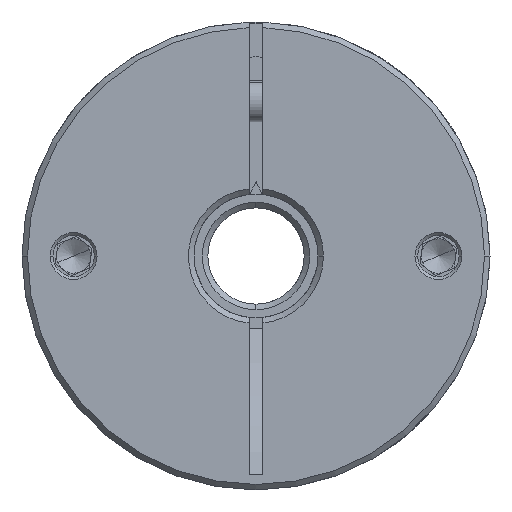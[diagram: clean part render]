
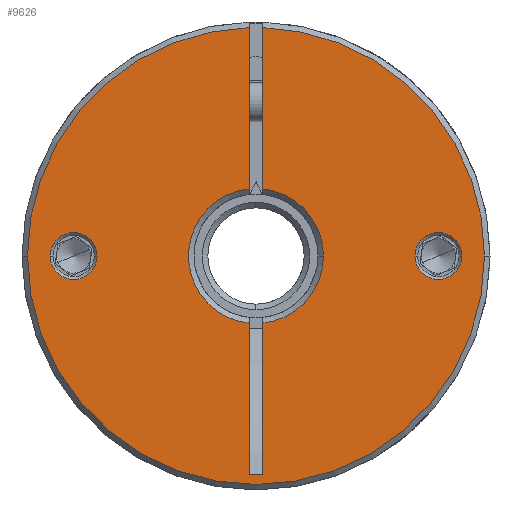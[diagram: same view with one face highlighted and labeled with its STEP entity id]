
A CAD part, front view. The second image highlights one B-rep face of the part: STEP entity #9626.
In plain terms, the highlighted planar face has unit normal (0, -1, 0).
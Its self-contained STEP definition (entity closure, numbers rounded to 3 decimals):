
#118 = DIRECTION ( 'NONE',  ( 1., 0., 0. ) ) ;
#172 = CARTESIAN_POINT ( 'NONE',  ( -1.735, -47.045, 68. ) ) ;
#186 = EDGE_CURVE ( 'NONE', #13258, #6462, #1898, .T. ) ;
#206 = DIRECTION ( 'NONE',  ( 0., 0., -1. ) ) ;
#277 = VERTEX_POINT ( 'NONE', #8946 ) ;
#279 = CARTESIAN_POINT ( 'NONE',  ( -1.735, -47.045, 36.279 ) ) ;
#445 = VERTEX_POINT ( 'NONE', #279 ) ;
#524 = AXIS2_PLACEMENT_3D ( 'NONE', #3279, #1145, #10631 ) ;
#626 = VECTOR ( 'NONE', #10446, 1000. ) ;
#857 = CARTESIAN_POINT ( 'NONE',  ( 23.765, -47.045, 68. ) ) ;
#892 = ORIENTED_EDGE ( 'NONE', *, *, #11038, .T. ) ;
#1102 = ORIENTED_EDGE ( 'NONE', *, *, #12597, .T. ) ;
#1109 = CARTESIAN_POINT ( 'NONE',  ( -3.735, -47.045, 77.749 ) ) ;
#1145 = DIRECTION ( 'NONE',  ( 0., -1., 0. ) ) ;
#1353 = AXIS2_PLACEMENT_3D ( 'NONE', #857, #8161, #7157 ) ;
#1414 = FACE_OUTER_BOUND ( 'NONE', #13243, .T. ) ;
#1898 = CIRCLE ( 'NONE', #12366, 9.8 ) ;
#1980 = CARTESIAN_POINT ( 'NONE',  ( 7.065, -47.045, 68. ) ) ;
#2111 = VERTEX_POINT ( 'NONE', #9731 ) ;
#2154 = CARTESIAN_POINT ( 'NONE',  ( -2.735, -47.045, 68. ) ) ;
#2313 = CARTESIAN_POINT ( 'NONE',  ( 20.365, -47.045, 68. ) ) ;
#2338 = VERTEX_POINT ( 'NONE', #4092 ) ;
#2488 = VECTOR ( 'NONE', #9210, 1000. ) ;
#2622 = DIRECTION ( 'NONE',  ( 1., 0., 0. ) ) ;
#2623 = VERTEX_POINT ( 'NONE', #8522 ) ;
#2710 = AXIS2_PLACEMENT_3D ( 'NONE', #13197, #6738, #2622 ) ;
#2825 = EDGE_CURVE ( 'NONE', #8550, #6773, #5056, .T. ) ;
#2843 = LINE ( 'NONE', #8639, #6564 ) ;
#2860 = CIRCLE ( 'NONE', #10900, 3.4 ) ;
#2945 = CARTESIAN_POINT ( 'NONE',  ( -1.735, -47.045, 77.749 ) ) ;
#3072 = CIRCLE ( 'NONE', #6744, 3.4 ) ;
#3116 = EDGE_CURVE ( 'NONE', #7519, #9860, #8112, .T. ) ;
#3189 = FACE_BOUND ( 'NONE', #7786, .T. ) ;
#3279 = CARTESIAN_POINT ( 'NONE',  ( -2.735, -47.045, 68. ) ) ;
#3294 = VECTOR ( 'NONE', #12781, 1000. ) ;
#3422 = VERTEX_POINT ( 'NONE', #6167 ) ;
#3592 = EDGE_CURVE ( 'NONE', #6773, #8550, #2860, .T. ) ;
#3653 = CARTESIAN_POINT ( 'NONE',  ( -2.735, -47.045, 68. ) ) ;
#3936 = DIRECTION ( 'NONE',  ( 1., 0., 0. ) ) ;
#3984 = DIRECTION ( 'NONE',  ( 0., -1., 0. ) ) ;
#4092 = CARTESIAN_POINT ( 'NONE',  ( -32.635, -47.045, 68. ) ) ;
#4115 = CARTESIAN_POINT ( 'NONE',  ( -1.735, -47.045, 68. ) ) ;
#4176 = ORIENTED_EDGE ( 'NONE', *, *, #12301, .T. ) ;
#4639 = ORIENTED_EDGE ( 'NONE', *, *, #10930, .T. ) ;
#4728 = DIRECTION ( 'NONE',  ( 0., 1., 0. ) ) ;
#4795 = AXIS2_PLACEMENT_3D ( 'NONE', #12314, #9121, #7979 ) ;
#4797 = ORIENTED_EDGE ( 'NONE', *, *, #3592, .T. ) ;
#4944 = CIRCLE ( 'NONE', #10161, 33.2 ) ;
#5056 = CIRCLE ( 'NONE', #1353, 3.4 ) ;
#5070 = EDGE_CURVE ( 'NONE', #2111, #2338, #10439, .T. ) ;
#5201 = CARTESIAN_POINT ( 'NONE',  ( -29.235, -47.045, 68. ) ) ;
#5205 = DIRECTION ( 'NONE',  ( 1., 0., 0. ) ) ;
#5320 = EDGE_CURVE ( 'NONE', #2338, #2111, #3072, .T. ) ;
#5421 = CARTESIAN_POINT ( 'NONE',  ( 23.765, -47.045, 68. ) ) ;
#5496 = CARTESIAN_POINT ( 'NONE',  ( 27.165, -47.045, 68. ) ) ;
#5563 = CARTESIAN_POINT ( 'NONE',  ( -3.735, -47.045, 36.279 ) ) ;
#5661 = DIRECTION ( 'NONE',  ( 1., 0., 0. ) ) ;
#5926 = AXIS2_PLACEMENT_3D ( 'NONE', #2154, #9357, #5205 ) ;
#6041 = EDGE_CURVE ( 'NONE', #12321, #13258, #11020, .T. ) ;
#6054 = ORIENTED_EDGE ( 'NONE', *, *, #6041, .T. ) ;
#6167 = CARTESIAN_POINT ( 'NONE',  ( -3.735, -47.045, 36.279 ) ) ;
#6462 = VERTEX_POINT ( 'NONE', #11277 ) ;
#6534 = LINE ( 'NONE', #172, #3294 ) ;
#6564 = VECTOR ( 'NONE', #206, 1000. ) ;
#6569 = CARTESIAN_POINT ( 'NONE',  ( -3.735, -47.045, 58.251 ) ) ;
#6594 = FACE_BOUND ( 'NONE', #9407, .T. ) ;
#6738 = DIRECTION ( 'NONE',  ( 0., 1., 0. ) ) ;
#6744 = AXIS2_PLACEMENT_3D ( 'NONE', #10913, #9777, #13192 ) ;
#6773 = VERTEX_POINT ( 'NONE', #5496 ) ;
#6885 = ORIENTED_EDGE ( 'NONE', *, *, #5070, .T. ) ;
#7157 = DIRECTION ( 'NONE',  ( 1., 0., 0. ) ) ;
#7352 = DIRECTION ( 'NONE',  ( 0., 1., 0. ) ) ;
#7390 = ORIENTED_EDGE ( 'NONE', *, *, #186, .T. ) ;
#7519 = VERTEX_POINT ( 'NONE', #6569 ) ;
#7693 = CIRCLE ( 'NONE', #5926, 33.2 ) ;
#7771 = EDGE_CURVE ( 'NONE', #277, #9860, #9265, .T. ) ;
#7786 = EDGE_LOOP ( 'NONE', ( #6885, #8759 ) ) ;
#7826 = DIRECTION ( 'NONE',  ( 1., 0., 0. ) ) ;
#7867 = CARTESIAN_POINT ( 'NONE',  ( -2.735, -47.045, 68. ) ) ;
#7922 = DIRECTION ( 'NONE',  ( 0., -1., 0. ) ) ;
#7979 = DIRECTION ( 'NONE',  ( 1., 0., 0. ) ) ;
#8112 = CIRCLE ( 'NONE', #2710, 9.8 ) ;
#8161 = DIRECTION ( 'NONE',  ( 0., 1., 0. ) ) ;
#8522 = CARTESIAN_POINT ( 'NONE',  ( -1.735, -47.045, 101.185 ) ) ;
#8548 = EDGE_CURVE ( 'NONE', #8790, #8984, #10990, .T. ) ;
#8550 = VERTEX_POINT ( 'NONE', #2313 ) ;
#8639 = CARTESIAN_POINT ( 'NONE',  ( -3.735, -47.045, 68. ) ) ;
#8759 = ORIENTED_EDGE ( 'NONE', *, *, #5320, .T. ) ;
#8790 = VERTEX_POINT ( 'NONE', #9828 ) ;
#8866 = PLANE ( 'NONE',  #13246 ) ;
#8946 = CARTESIAN_POINT ( 'NONE',  ( -3.735, -47.045, 101.185 ) ) ;
#8984 = VERTEX_POINT ( 'NONE', #11342 ) ;
#9070 = ORIENTED_EDGE ( 'NONE', *, *, #11872, .T. ) ;
#9121 = DIRECTION ( 'NONE',  ( 0., 1., 0. ) ) ;
#9210 = DIRECTION ( 'NONE',  ( 0., 0., -1. ) ) ;
#9265 = LINE ( 'NONE', #12698, #626 ) ;
#9318 = LINE ( 'NONE', #5563, #11368 ) ;
#9357 = DIRECTION ( 'NONE',  ( 0., -1., 0. ) ) ;
#9407 = EDGE_LOOP ( 'NONE', ( #4797, #12665 ) ) ;
#9449 = DIRECTION ( 'NONE',  ( 0., 1., 0. ) ) ;
#9538 = DIRECTION ( 'NONE',  ( 1., 0., 0. ) ) ;
#9626 = ADVANCED_FACE ( 'NONE', ( #6594, #3189, #1414 ), #8866, .T. ) ;
#9731 = CARTESIAN_POINT ( 'NONE',  ( -25.835, -47.045, 68. ) ) ;
#9777 = DIRECTION ( 'NONE',  ( 0., 1., 0. ) ) ;
#9820 = ORIENTED_EDGE ( 'NONE', *, *, #8548, .T. ) ;
#9828 = CARTESIAN_POINT ( 'NONE',  ( -35.935, -47.045, 68. ) ) ;
#9860 = VERTEX_POINT ( 'NONE', #1109 ) ;
#10161 = AXIS2_PLACEMENT_3D ( 'NONE', #10234, #3984, #3936 ) ;
#10234 = CARTESIAN_POINT ( 'NONE',  ( -2.735, -47.045, 68. ) ) ;
#10439 = CIRCLE ( 'NONE', #10570, 3.4 ) ;
#10446 = DIRECTION ( 'NONE',  ( 0., 0., -1. ) ) ;
#10570 = AXIS2_PLACEMENT_3D ( 'NONE', #5201, #9449, #118 ) ;
#10575 = ORIENTED_EDGE ( 'NONE', *, *, #7771, .F. ) ;
#10631 = DIRECTION ( 'NONE',  ( 1., 0., 0. ) ) ;
#10900 = AXIS2_PLACEMENT_3D ( 'NONE', #5421, #7352, #9538 ) ;
#10913 = CARTESIAN_POINT ( 'NONE',  ( -29.235, -47.045, 68. ) ) ;
#10930 = EDGE_CURVE ( 'NONE', #8984, #2623, #4944, .T. ) ;
#10990 = CIRCLE ( 'NONE', #524, 33.2 ) ;
#11001 = LINE ( 'NONE', #4115, #2488 ) ;
#11020 = CIRCLE ( 'NONE', #4795, 9.8 ) ;
#11038 = EDGE_CURVE ( 'NONE', #277, #8790, #7693, .T. ) ;
#11108 = EDGE_CURVE ( 'NONE', #7519, #3422, #2843, .T. ) ;
#11277 = CARTESIAN_POINT ( 'NONE',  ( -1.735, -47.045, 58.251 ) ) ;
#11342 = CARTESIAN_POINT ( 'NONE',  ( 30.465, -47.045, 68. ) ) ;
#11368 = VECTOR ( 'NONE', #12954, 1000. ) ;
#11872 = EDGE_CURVE ( 'NONE', #6462, #445, #6534, .T. ) ;
#12301 = EDGE_CURVE ( 'NONE', #2623, #12321, #11001, .T. ) ;
#12314 = CARTESIAN_POINT ( 'NONE',  ( -2.735, -47.045, 68. ) ) ;
#12321 = VERTEX_POINT ( 'NONE', #2945 ) ;
#12366 = AXIS2_PLACEMENT_3D ( 'NONE', #7867, #4728, #7826 ) ;
#12597 = EDGE_CURVE ( 'NONE', #445, #3422, #9318, .T. ) ;
#12665 = ORIENTED_EDGE ( 'NONE', *, *, #2825, .T. ) ;
#12698 = CARTESIAN_POINT ( 'NONE',  ( -3.735, -47.045, 68. ) ) ;
#12781 = DIRECTION ( 'NONE',  ( 0., 0., -1. ) ) ;
#12954 = DIRECTION ( 'NONE',  ( -1., 0., 0. ) ) ;
#13180 = ORIENTED_EDGE ( 'NONE', *, *, #3116, .T. ) ;
#13192 = DIRECTION ( 'NONE',  ( 1., 0., 0. ) ) ;
#13197 = CARTESIAN_POINT ( 'NONE',  ( -2.735, -47.045, 68. ) ) ;
#13243 = EDGE_LOOP ( 'NONE', ( #10575, #892, #9820, #4639, #4176, #6054, #7390, #9070, #1102, #13558, #13180 ) ) ;
#13246 = AXIS2_PLACEMENT_3D ( 'NONE', #3653, #7922, #5661 ) ;
#13258 = VERTEX_POINT ( 'NONE', #1980 ) ;
#13558 = ORIENTED_EDGE ( 'NONE', *, *, #11108, .F. ) ;
